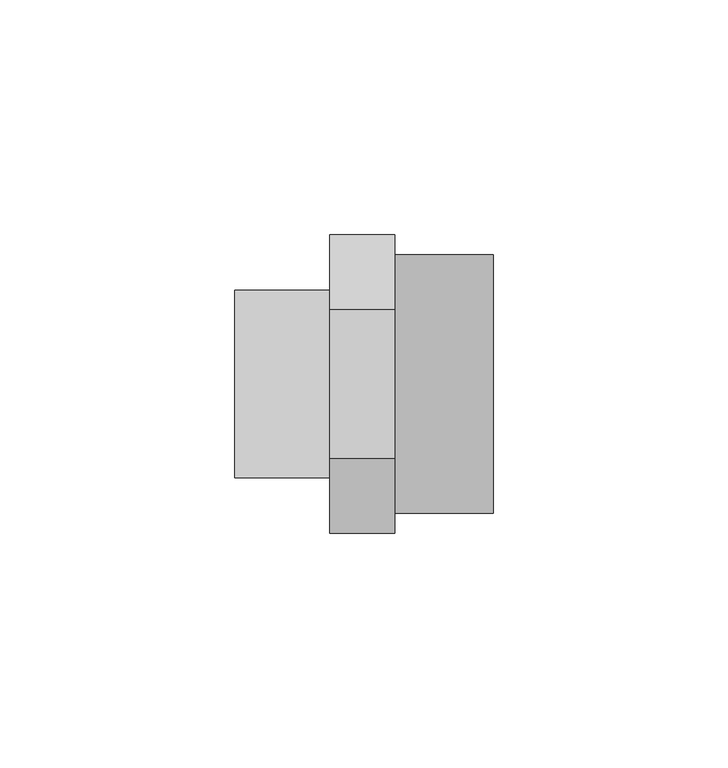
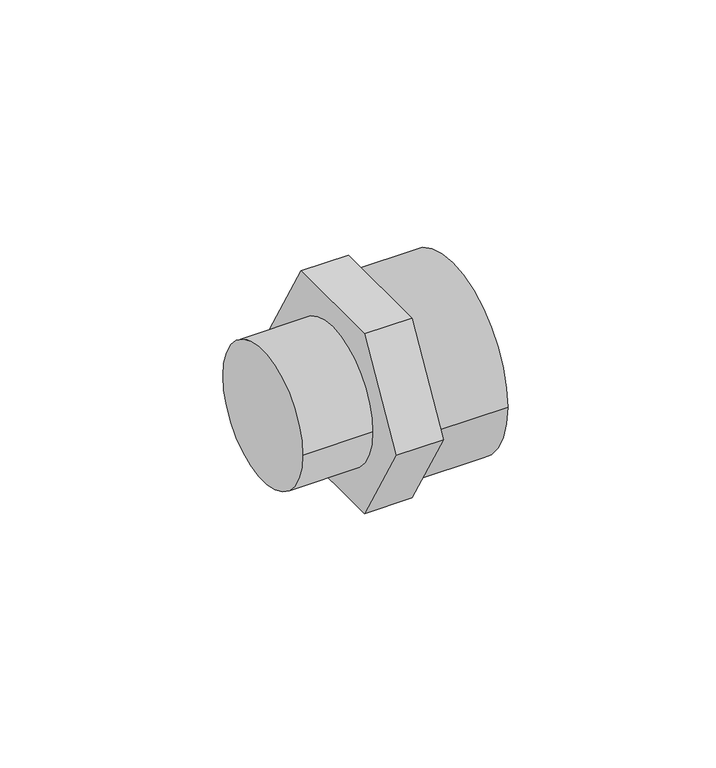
"""IFC4 building model written with IfcOpenShell, lengths in millimetres: pipe fitting geometry."""

from ifc_helpers import new_model, si_unit, point, frame, origin, origin_2d, place, context, project, spatial, polyline, circle_curve, trimmed, segment, composite_curve, outline, extrude, source, transform, mapped, element, save


def pipe_fitting_fcaed75d(model_context):
    return source(origin(), model_context, "Body", "SweptSolid", [
        extrude(outline(composite_curve([segment(trimmed(circle_curve(origin_2d(), 20.0), [point((20.0, 0.0))], [point((-20.0, 0.0))], False, "CARTESIAN"), True, "CONTINUOUS"), segment(trimmed(circle_curve(origin_2d(), 20.0), [point((-20.0, 0.0))], [point((20.0, 0.0))], False, "CARTESIAN"), True, "CONTINUOUS")], self_intersect=False)), frame((0.0, 0.0, 0.0), z_axis=(1.0, 0.0, 0.0), x_axis=(0.0, 1.0, 0.0)), (0.0, 0.0, 1.0), 20.25),
        extrude(outline(polyline([(-15.8771324, 27.5), (15.8771324, 27.5), (31.7542648, 0.0), (15.8771324, -27.5), (-15.8771324, -27.5), (-31.7542648, 0.0), (-15.8771324, 27.5)])), frame((20.25, 0.0, 0.0), z_axis=(1.0, 0.0, 0.0), x_axis=(0.0, 1.0, 0.0)), (0.0, 0.0, 1.0), 13.75),
        extrude(outline(composite_curve([segment(trimmed(circle_curve(origin_2d(), 27.5), [point((-27.5, 0.0))], [point((27.5, 0.0))], False, "CARTESIAN"), True, "CONTINUOUS"), segment(trimmed(circle_curve(origin_2d(), 27.5), [point((27.5, 0.0))], [point((-27.5, 0.0))], False, "CARTESIAN"), True, "CONTINUOUS")], self_intersect=False)), frame((34.0, 0.0, 0.0), z_axis=(1.0, 0.0, 0.0), x_axis=(0.0, 1.0, 0.0)), (0.0, 0.0, 1.0), 21.0),
    ])


if __name__ == "__main__":
    model = new_model("IFC4")
    model_context = context("Model", 3, world=origin())
    ifc_project = project(units=[si_unit("LENGTHUNIT", "METRE", prefix="MILLI")], contexts=[model_context])
    site = spatial("IfcSite", under=ifc_project)
    building = spatial("IfcBuilding", under=site)
    placement = place(None, origin())
    pipe_fitting_shape = pipe_fitting_fcaed75d(model_context)
    element("IfcPipeFitting", 1, at=placement, inside=building, context=model_context, shape_type="MappedRepresentation", body=[
        mapped(pipe_fitting_shape, transform((0.0, 0.0, 0.0), x_axis=(1.0, 0.0, 0.0), y_axis=(0.0, 1.0, 0.0), z_axis=(0.0, 0.0, 1.0))),
    ])
    save(model, "model.ifc")
